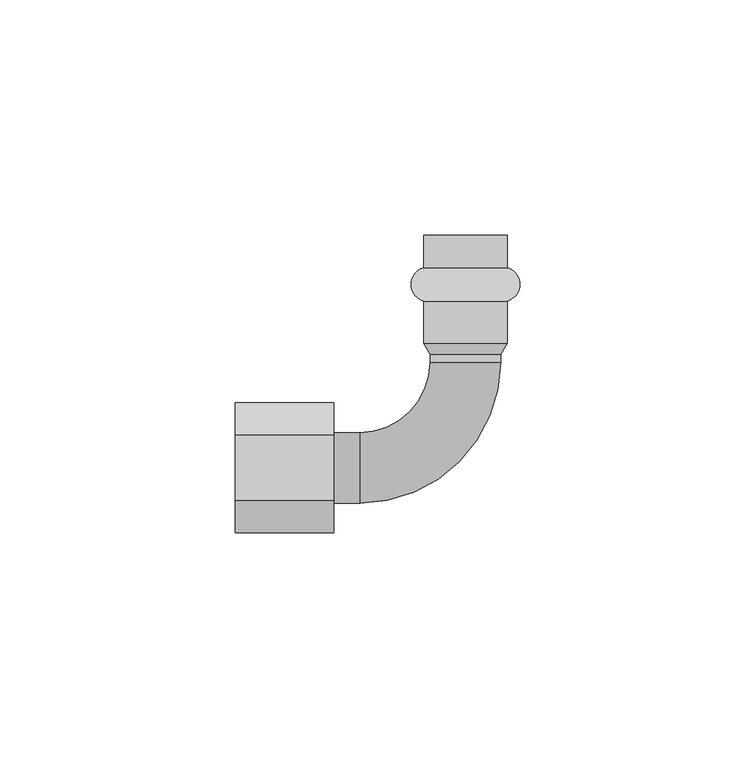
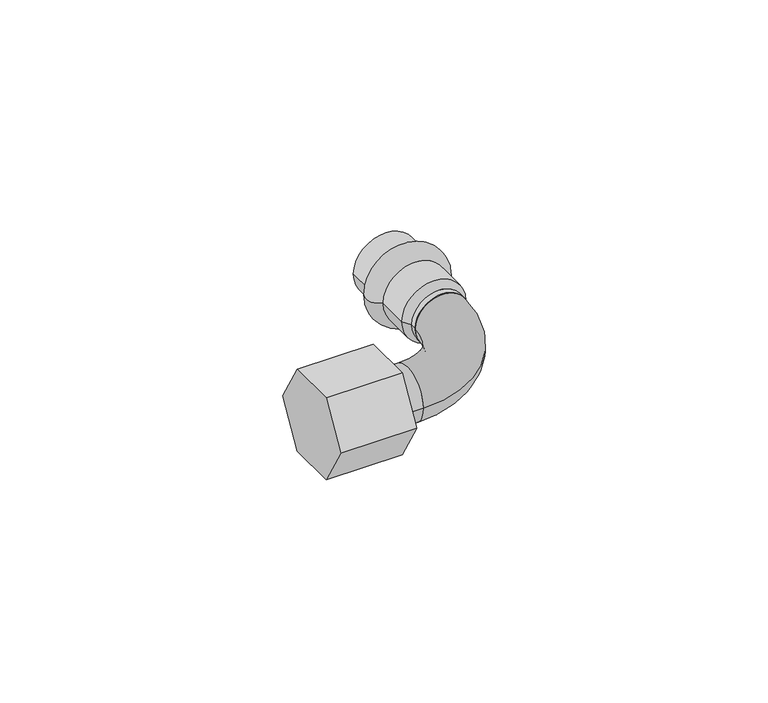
"""IFC4 building model written with IfcOpenShell, lengths in millimetres: valve geometry, Отвод_90°_с_переходом_на_внутреннюю_или_наружнюю_резьбу : VTi.956.I."""

from ifc_helpers import new_model, si_unit, point, frame, origin, place, context, project, spatial, polyline, circle_curve, ellipse_curve, trimmed, outline, extrude, source, transform, mapped, element, save
from ifc_brep_helpers import plane_surface, cylinder_surface, revolved_surface, advanced_brep


def valve_32cbd1e2(model_context):
    return source(origin(), model_context, "Body", "SolidModel", [
        extrude(outline(polyline([(-6.9282032, 12.0), (6.9282032, 12.0), (13.8564065, 0.0), (6.9282032, -12.0), (-6.9282032, -12.0), (-13.8564065, 0.0), (-6.9282032, 12.0)])), frame((-49.0, 0.0, 0.0), z_axis=(1.0, 0.0, 0.0), x_axis=(0.0, 1.0, 0.0)), (0.0, 0.0, 1.0), 21.0),
        advanced_brep(
        [(8.9, 42.56, 0.0), (-8.9, 42.56, 0.0), (-8.9, 49.5, 0.0), (8.9, 49.5, 0.0), (8.9, 35.44, 0.0), (-8.9, 35.44, 0.0), (8.9, 26.5, 0.0), (-8.9, 26.5, 0.0), (7.5, 24.16, 0.0), (-7.5, 24.16, 0.0), (7.5, 22.5, 0.0), (-7.5, 22.5, 0.0), (0.0, 22.5, 0.0), (0.0, 49.5, 0.0)],
        [
            (0, 1, circle_curve(frame((0.0, 42.56, 0.0), z_axis=(0.0, 1.0, 0.0), x_axis=(-1.0, 0.0, 0.0)), 8.9)),
            (1, 2),
            (2, 3, circle_curve(frame((0.0, 49.5, 0.0), z_axis=(0.0, -1.0, 0.0), x_axis=(-1.0, 0.0, 0.0)), 8.9)),
            (3, 0),
            (1, 0, circle_curve(frame((0.0, 42.56, 0.0), z_axis=(0.0, 1.0, 0.0), x_axis=(-1.0, 0.0, 0.0)), 8.9)),
            (3, 2, circle_curve(frame((0.0, 49.5, 0.0), z_axis=(0.0, -1.0, 0.0), x_axis=(-1.0, 0.0, 0.0)), 8.9)),
            (4, 5, circle_curve(frame((0.0, 35.44, 0.0), z_axis=(0.0, 1.0, 0.0), x_axis=(-1.0, 0.0, 0.0)), 8.9)),
            (5, 1, circle_curve(frame((-7.8504491, 39.0, 0.0), z_axis=(0.0, 0.0, -1.0), x_axis=(0.0, 1.0, 0.0)), 3.7114899)),
            (0, 4, circle_curve(frame((7.8504491, 39.0, 0.0), z_axis=(0.0, 0.0, -1.0), x_axis=(0.0, 1.0, 0.0)), 3.7114899)),
            (5, 4, circle_curve(frame((0.0, 35.44, 0.0), z_axis=(0.0, 1.0, 0.0), x_axis=(-1.0, 0.0, 0.0)), 8.9)),
            (6, 7, circle_curve(frame((0.0, 26.5, 0.0), z_axis=(0.0, 1.0, 0.0), x_axis=(-1.0, 0.0, 0.0)), 8.9)),
            (7, 5),
            (4, 6),
            (7, 6, circle_curve(frame((0.0, 26.5, 0.0), z_axis=(0.0, 1.0, 0.0), x_axis=(-1.0, 0.0, 0.0)), 8.9)),
            (8, 9, circle_curve(frame((0.0, 24.16, 0.0), z_axis=(0.0, 1.0, 0.0), x_axis=(-1.0, 0.0, 0.0)), 7.5)),
            (9, 7),
            (6, 8),
            (9, 8, circle_curve(frame((0.0, 24.16, 0.0), z_axis=(0.0, 1.0, 0.0), x_axis=(-1.0, 0.0, 0.0)), 7.5)),
            (10, 11, circle_curve(frame((0.0, 22.5, 0.0), z_axis=(0.0, 1.0, 0.0), x_axis=(-1.0, 0.0, 0.0)), 7.5)),
            (11, 9),
            (8, 10),
            (11, 10, circle_curve(frame((0.0, 22.5, 0.0), z_axis=(0.0, 1.0, 0.0), x_axis=(-1.0, 0.0, 0.0)), 7.5)),
            (12, 11),
            (10, 12),
            (2, 13),
            (13, 3),
        ],
        [
            cylinder_surface(frame((0.0, 2049.5, 0.0), z_axis=(0.0, -1.0, 0.0), x_axis=(-1.0, 0.0, 0.0)), 8.9),
            revolved_surface(trimmed(ellipse_curve(frame((-7.8504491, 39.0, 0.0), z_axis=(0.0, 0.0, 1.0), x_axis=(0.0, 1.0, 0.0)), 3.7114899, 3.7114899), [point((-8.9, 42.56, 0.0))], [point((-8.9, 35.44, 0.0))], True, "CARTESIAN"), (0.0, 2049.5, 0.0), (0.0, -1.0, 0.0)),
            revolved_surface(polyline([(-8.9, 26.5, 0.0), (-7.5, 24.16, 0.0)]), (0.0, 2049.5, 0.0), (0.0, -1.0, 0.0)),
            cylinder_surface(frame((0.0, 2049.5, 0.0), z_axis=(0.0, -1.0, 0.0), x_axis=(-1.0, 0.0, 0.0)), 7.5),
            plane_surface(frame((0.0, 22.5, 0.0), z_axis=(0.0, -1.0, 0.0), x_axis=(-1.0, 0.0, 0.0))),
            plane_surface(frame((0.0, 49.5, 0.0), z_axis=(0.0, 1.0, 0.0), x_axis=(-1.0, 0.0, 0.0))),
        ],
        [
            (0, [[1, 2, 3, 4]]),
            (0, [[5, -4, 6, -2]]),
            (1, [[7, 8, -1, 9]]),
            (1, [[10, -9, -5, -8]]),
            (0, [[11, 12, -7, 13]]),
            (0, [[14, -13, -10, -12]]),
            (2, [[15, 16, -11, 17]]),
            (2, [[18, -17, -14, -16]]),
            (3, [[19, 20, -15, 21]]),
            (3, [[22, -21, -18, -20]]),
            (4, [[23, -19, 24]]),
            (4, [[-24, -22, -23]]),
            (5, [[-3, 25, 26]]),
            (5, [[-6, -26, -25]]),
        ],
    ),
        advanced_brep(
        [(-22.5, -7.5, 0.0), (-22.5, 7.5, 0.0), (-22.5, 0.0, 0.0), (-28.0, -7.5, 0.0), (-28.0, 7.5, 0.0), (-28.0, 0.0, 0.0)],
        [
            (0, 1, circle_curve(frame((-22.5, 0.0, 0.0), z_axis=(1.0, 0.0, 0.0), x_axis=(0.0, 1.0, 0.0)), 7.5)),
            (1, 2),
            (2, 0),
            (1, 0, circle_curve(frame((-22.5, 0.0, 0.0), z_axis=(1.0, 0.0, 0.0), x_axis=(0.0, 1.0, 0.0)), 7.5)),
            (3, 4, circle_curve(frame((-28.0, 0.0, 0.0), z_axis=(1.0, 0.0, 0.0), x_axis=(0.0, 1.0, 0.0)), 7.5)),
            (4, 1),
            (0, 3),
            (4, 3, circle_curve(frame((-28.0, 0.0, 0.0), z_axis=(1.0, 0.0, 0.0), x_axis=(0.0, 1.0, 0.0)), 7.5)),
            (5, 4),
            (3, 5),
        ],
        [
            plane_surface(frame((-22.5, 0.0, 0.0), z_axis=(1.0, 0.0, 0.0), x_axis=(0.0, 1.0, 0.0))),
            cylinder_surface(frame((2000.0, 0.0, 0.0), z_axis=(-1.0, 0.0, 0.0), x_axis=(0.0, 1.0, 0.0)), 7.5),
            plane_surface(frame((-28.0, 0.0, 0.0), z_axis=(-1.0, 0.0, 0.0), x_axis=(0.0, 1.0, 0.0))),
        ],
        [
            (0, [[1, 2, 3]]),
            (0, [[4, -3, -2]]),
            (1, [[5, 6, -1, 7]]),
            (1, [[8, -7, -4, -6]]),
            (2, [[9, -5, 10]]),
            (2, [[-10, -8, -9]]),
        ],
    ),
        advanced_brep(
        [(-7.5, 22.5, 0.0), (7.5, 22.5, 0.0), (-22.5, 7.5, 0.0), (-22.5, -7.5, 0.0)],
        [
            (0, 1, circle_curve(frame((0.0, 22.5, 0.0), z_axis=(0.0, 1.0, 0.0), x_axis=(1.0, 0.0, 0.0)), 7.5)),
            (1, 0, circle_curve(frame((0.0, 22.5, 0.0), z_axis=(0.0, 1.0, 0.0), x_axis=(1.0, 0.0, 0.0)), 7.5)),
            (2, 3, circle_curve(frame((-22.5, 0.0, 0.0), z_axis=(-1.0, 0.0, 0.0), x_axis=(0.0, -1.0, 0.0)), 7.5)),
            (3, 2, circle_curve(frame((-22.5, 0.0, 0.0), z_axis=(-1.0, 0.0, 0.0), x_axis=(0.0, -1.0, 0.0)), 7.5)),
            (3, 1, circle_curve(frame((-22.5, 22.5, 0.0), z_axis=(0.0, 0.0, 1.0), x_axis=(1.0, 0.0, 0.0)), 30.0)),
            (0, 2, circle_curve(frame((-22.5, 22.5, 0.0), z_axis=(0.0, 0.0, -1.0), x_axis=(1.0, 0.0, 0.0)), 15.0)),
        ],
        [
            plane_surface(frame((0.0, 22.5, 0.0), z_axis=(0.0, 1.0, 0.0), x_axis=(0.0, 0.0, 1.0))),
            plane_surface(frame((-22.5, 0.0, 0.0), z_axis=(-1.0, 0.0, 0.0), x_axis=(0.0, 0.0, 1.0))),
            revolved_surface(trimmed(ellipse_curve(frame((0.0, 22.5, 0.0), z_axis=(0.0, 1.0, 0.0), x_axis=(1.0, 0.0, 0.0)), 7.5, 7.5), [point((-7.5, 22.5, 0.0))], [point((7.5, 22.5, 0.0))], True, "CARTESIAN"), (-22.5, 22.5, 0.0), (0.0, 0.0, -1.0)),
            revolved_surface(trimmed(ellipse_curve(frame((0.0, 22.5, 0.0), z_axis=(0.0, 1.0, 0.0), x_axis=(1.0, 0.0, 0.0)), 7.5, 7.5), [point((7.5, 22.5, 0.0))], [point((-7.5, 22.5, 0.0))], True, "CARTESIAN"), (-22.5, 22.5, 0.0), (0.0, 0.0, -1.0)),
        ],
        [
            (0, [[1, 2]]),
            (1, [[3, 4]]),
            (2, [[5, -1, 6, -4]]),
            (3, [[-6, -2, -5, -3]]),
        ],
    ),
    ])


if __name__ == "__main__":
    model = new_model("IFC4")
    model_context = context("Model", 3, world=origin())
    ifc_project = project(units=[si_unit("LENGTHUNIT", "METRE", prefix="MILLI")], contexts=[model_context])
    site = spatial("IfcSite", under=ifc_project)
    building = spatial("IfcBuilding", under=site)
    placement = place(None, origin())
    valve_shape = valve_32cbd1e2(model_context)
    element("IfcValve", 1, ObjectType="Отвод_90°_с_переходом_на_внутреннюю_или_наружнюю_резьбу : VTi.956.I", at=placement, inside=building, context=model_context, shape_type="MappedRepresentation", body=[
        mapped(valve_shape, transform((0.0, 0.0, 0.0), x_axis=(1.0, 0.0, 0.0), y_axis=(0.0, 1.0, 0.0), z_axis=(0.0, 0.0, 1.0))),
    ])
    save(model, "model.ifc")
